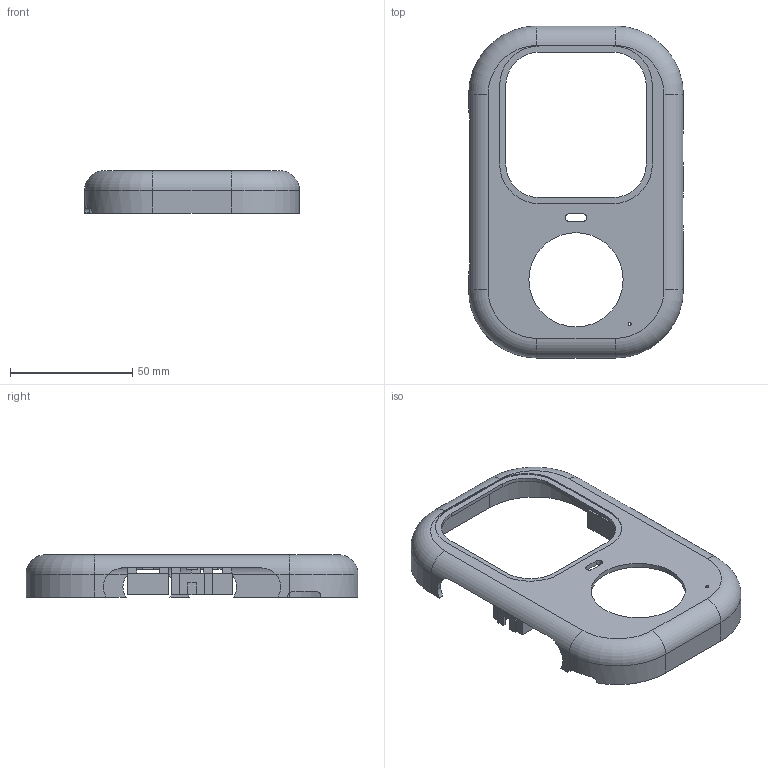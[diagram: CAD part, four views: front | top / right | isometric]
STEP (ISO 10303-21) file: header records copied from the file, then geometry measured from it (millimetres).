
FILE_DESCRIPTION(('Open CASCADE Model'),'2;1');
FILE_NAME('Open CASCADE Shape Model','2026-09-08T16:16:29',('Author'),( 'Open CASCADE'),'Open CASCADE STEP processor 7.7','Open CASCADE 7.7' ,'Unknown');
FILE_SCHEMA(('AUTOMOTIVE_DESIGN { 1 0 10303 214 1 1 1 1 }'));
Length unit declared in the file: millimetre
Products named in the file (1): Open CASCADE STEP translator 7.7 11
Bounding box: 88 x 136 x 17.4 mm (x, y, z)
Volume: 22863.9 mm3; surface area: 25786.8 mm2
Topology: 1 solids, 1 shells, 294 faces, 842 edges, 556 vertices
Faces by surface type: plane 231, cylinder 55, torus 8
Full cylindrical faces by diameter (mm): 1.2 x1, 1.7 x8, 5.4 x2, 38.6 x1, 41 x1
Entity records: 21372 total; most frequent: CARTESIAN_POINT 4653, DIRECTION 3054, LINE 2110, VECTOR 2110, ORIENTED_EDGE 1684, PCURVE 1684, DEFINITIONAL_REPRESENTATION 1684, EDGE_CURVE 842
